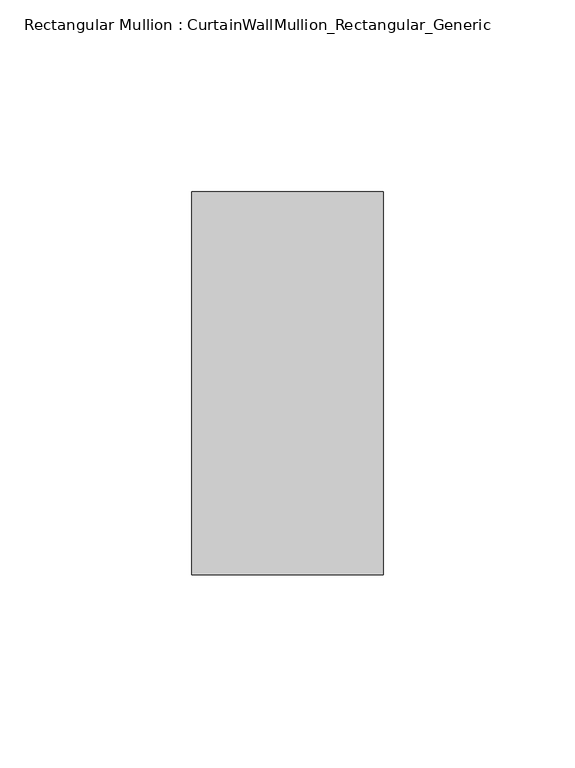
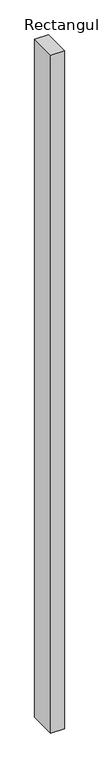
"""IFC4 building model written with IfcOpenShell, lengths in millimetres: member geometry, Rectangular Mullion : CurtainWallMullion_Rectangular_Generic."""

import ifcopenshell
import ifcopenshell.guid

model = None  # the IFC model being written
_history = None  # IfcOwnerHistory: only IFC2X3 demands one
_inside = {}  # id of a spatial element -> (the spatial element, [elements in it])
_under = {}  # id of a project, library or spatial element -> (it, [spatial elements below it])
_declared = {}  # id of a project -> (the project, [libraries it declares])
_typed = {}  # id of a type object -> (the type object, [elements of that type])
_made_of = {}  # id of a material, layer set ... -> (it, [elements and type objects made of it])


def new_model(schema):
    """Start an empty IFC model of exactly this schema.

    Asked for "IFC4X3", IfcOpenShell would pick the latest addendum, in which some entities
    have other attributes; the version numbers below select the first issue.
    IFC2X3 requires an IfcOwnerHistory on every rooted entity: one is made here for all.
    """
    global model, _history
    if schema == "IFC4X3":
        model = ifcopenshell.file(schema_version=(4, 3, 0, 0))
    else:
        model = ifcopenshell.file(schema=schema)
    _inside.clear()
    _under.clear()
    _declared.clear()
    _typed.clear()
    _made_of.clear()
    _history = None
    if model.schema == "IFC2X3":
        org = make("IfcOrganization", Name="unknown")
        user = make(
            "IfcPersonAndOrganization",
            ThePerson=make("IfcPerson", FamilyName="unknown"),
            TheOrganization=org,
        )
        app = make(
            "IfcApplication",
            ApplicationDeveloper=org,
            Version="unknown",
            ApplicationFullName="unknown",
            ApplicationIdentifier="unknown",
        )
        _history = make(
            "IfcOwnerHistory",
            OwningUser=user,
            OwningApplication=app,
            ChangeAction="ADDED",
            CreationDate=0,
        )
    return model


def make(cls, **values):
    """One entity of the class cls with the attributes given. An attribute that is None is left unset."""
    return model.create_entity(
        cls, **{name: value for name, value in values.items() if value is not None}
    )


def rooted(cls, **values):
    """An entity with a GlobalId (a new one), such as an element, a storey or a relation."""
    return make(cls, GlobalId=ifcopenshell.guid.new(), OwnerHistory=_history, **values)


def si_unit(unit_type, name, prefix=None):
    """IfcSIUnit, for example si_unit("LENGTHUNIT", "METRE", prefix="MILLI")."""
    return make("IfcSIUnit", UnitType=unit_type, Prefix=prefix, Name=name)


def assignment(units):
    """IfcUnitAssignment: the units of a project."""
    return None if units is None else make("IfcUnitAssignment", Units=units)


def point(xyz):
    """IfcCartesianPoint."""
    return None if xyz is None else make("IfcCartesianPoint", Coordinates=xyz)


def direction(xyz):
    """IfcDirection."""
    return None if xyz is None else make("IfcDirection", DirectionRatios=xyz)


def frame(location, z_axis=None, x_axis=None):
    """IfcAxis2Placement3D, a coordinate frame: its origin and axes. An axis left out is left unset."""
    return make(
        "IfcAxis2Placement3D",
        Location=point(location),
        Axis=direction(z_axis),
        RefDirection=direction(x_axis),
    )


def origin():
    """The frame at (0, 0, 0) with its axes left unset."""
    return frame((0.0, 0.0, 0.0))


def place(relative_to, where):
    """IfcLocalPlacement: puts the frame where relative to a parent placement (None: the world)."""
    return make(
        "IfcLocalPlacement", PlacementRelTo=relative_to, RelativePlacement=where
    )


def context(
    kind, dimensions, precision=None, world=None, true_north=None, identifier=None
):
    """IfcGeometricRepresentationContext, for example the 3D "Model" context."""
    return make(
        "IfcGeometricRepresentationContext",
        ContextIdentifier=identifier,
        ContextType=kind,
        CoordinateSpaceDimension=dimensions,
        Precision=precision,
        WorldCoordinateSystem=world,
        TrueNorth=true_north,
    )


def project(units=None, contexts=None):
    """IfcProject with its units and contexts."""
    return rooted(
        "IfcProject",
        Name="project",
        RepresentationContexts=contexts,
        UnitsInContext=assignment(units),
    )


def spatial(cls, under=None, at=None, **own):
    """A site, building, storey or space (cls), placed at a placement, below another one or the project."""
    s = rooted(cls, ObjectPlacement=at, **own)
    if under is not None:
        _under.setdefault(under.id(), (under, []))[1].append(s)
    return s


def polyline(points):
    """IfcPolyline through the points."""
    return make("IfcPolyline", Points=[point(p) for p in points])


def outline(outer, holes=None, kind="AREA"):
    """IfcArbitraryClosedProfileDef: a profile drawn as a closed curve; with holes, ...WithVoids."""
    if holes is None:
        return make("IfcArbitraryClosedProfileDef", ProfileType=kind, OuterCurve=outer)
    return make(
        "IfcArbitraryProfileDefWithVoids",
        ProfileType=kind,
        OuterCurve=outer,
        InnerCurves=holes,
    )


def extrude(swept, where, along, depth):
    """IfcExtrudedAreaSolid: the profile swept, set in the frame where, extruded along a direction by depth."""
    return make(
        "IfcExtrudedAreaSolid",
        SweptArea=swept,
        Position=where,
        ExtrudedDirection=direction(along),
        Depth=depth,
    )


def shape(context_of_items, identifier, shape_type, items):
    """IfcShapeRepresentation: the items that make up one representation, for example the "Body"."""
    return make(
        "IfcShapeRepresentation",
        ContextOfItems=context_of_items,
        RepresentationIdentifier=identifier,
        RepresentationType=shape_type,
        Items=items,
    )


def source(mapping_origin, context_of_items, identifier, shape_type, items):
    """IfcRepresentationMap: a shape defined once, which mapped items show again and again."""
    return make(
        "IfcRepresentationMap",
        MappingOrigin=mapping_origin,
        MappedRepresentation=shape(context_of_items, identifier, shape_type, items),
    )


def transform(
    local_origin,
    x_axis=None,
    y_axis=None,
    z_axis=None,
    scale=None,
    scale2=None,
    scale3=None,
    uniform=True,
):
    """IfcCartesianTransformationOperator3D, or its non-uniform kind. x_axis, y_axis, z_axis: its Axis1, 2, 3."""
    if uniform:
        return make(
            "IfcCartesianTransformationOperator3D",
            Axis1=direction(x_axis),
            Axis2=direction(y_axis),
            LocalOrigin=point(local_origin),
            Scale=scale,
            Axis3=direction(z_axis),
        )
    return make(
        "IfcCartesianTransformationOperator3DnonUniform",
        Axis1=direction(x_axis),
        Axis2=direction(y_axis),
        LocalOrigin=point(local_origin),
        Scale=scale,
        Axis3=direction(z_axis),
        Scale2=scale2,
        Scale3=scale3,
    )


def mapped(mapping_source, mapping_target):
    """IfcMappedItem: shows the shape of a source again, moved by a transform."""
    return make(
        "IfcMappedItem", MappingSource=mapping_source, MappingTarget=mapping_target
    )


def made_of(thing, what):
    """Note that an element or type object is made of a material, layer set ...; save() writes the relation."""
    if what is not None:
        _made_of.setdefault(what.id(), (what, []))[1].append(thing)
    return thing


def element(
    cls,
    number,
    at=None,
    inside=None,
    cuts=None,
    type_object=None,
    material=None,
    context=None,
    identifier="Body",
    shape_type=None,
    held_by="IfcProductDefinitionShape",
    body=None,
    shapes=None,
    **own,
):
    """One element of the class cls, such as IfcWall. Its Tag is "e" and its number.

    at: its placement. inside: the storey or other place that contains it. cuts: it is an
    opening in that element (IfcRelVoidsElement). A single representation is given by context,
    identifier, shape_type and body (its items); several are given by shapes. held_by: the class
    of the entity that holds the representations. save() writes the other relations.
    """
    e = rooted(cls, Tag="e%d" % number, ObjectPlacement=at, **own)
    if body is not None:
        shapes = [shape(context, identifier, shape_type, body)]
    if shapes is not None:
        e.Representation = make(held_by, Representations=shapes)
    if inside is not None:
        _inside.setdefault(inside.id(), (inside, []))[1].append(e)
    if cuts is not None:
        rooted(
            "IfcRelVoidsElement", RelatingBuildingElement=cuts, RelatedOpeningElement=e
        )
    if type_object is not None:
        _typed.setdefault(type_object.id(), (type_object, []))[1].append(e)
    return made_of(e, material)


def aggregate(whole, parts):
    """IfcRelAggregates: a whole, such as a stair, and the parts it consists of."""
    return rooted("IfcRelAggregates", RelatingObject=whole, RelatedObjects=parts)


def save(model, path):
    """Write the relations noted so far, then the file.

    IfcRelAggregates (storeys below a building ...), IfcRelContainedInSpatialStructure (elements
    in a storey), IfcRelDefinesByType, IfcRelAssociatesMaterial and IfcRelDeclares: one each for
    every whole, place, type object, material and project.
    """
    for whole, parts in _under.values():
        aggregate(whole, parts)
    for where, things in _inside.values():
        rooted(
            "IfcRelContainedInSpatialStructure",
            RelatedElements=things,
            RelatingStructure=where,
        )
    for kind, things in _typed.values():
        rooted("IfcRelDefinesByType", RelatedObjects=things, RelatingType=kind)
    for what, things in _made_of.values():
        rooted("IfcRelAssociatesMaterial", RelatedObjects=things, RelatingMaterial=what)
    for by, libraries in _declared.values():
        rooted("IfcRelDeclares", RelatingContext=by, RelatedDefinitions=libraries)
    model.write(path)


def rectangular_mullion_curtainwallmullion_rectangular_generic_bd027367(model_context):
    return source(origin(), model_context, "Body", "SweptSolid", [
        extrude(outline(polyline([(25.0, 50.0), (25.0, -50.0), (-25.0, -50.0), (-25.0, 50.0), (25.0, 50.0)])), frame((0.0, 0.0, -2602.0000001), z_axis=(0.0, 0.0, 1.0), x_axis=(1.0, 0.0, 0.0)), (0.0, 0.0, 1.0), 2602.0000001),
    ])


if __name__ == "__main__":
    model = new_model("IFC4")
    model_context = context("Model", 3, world=origin())
    ifc_project = project(units=[si_unit("LENGTHUNIT", "METRE", prefix="MILLI")], contexts=[model_context])
    site = spatial("IfcSite", under=ifc_project)
    building = spatial("IfcBuilding", under=site)
    placement = place(None, origin())
    rectangular_mullion_curtainwallmullion_rectangular_generic_shape = rectangular_mullion_curtainwallmullion_rectangular_generic_bd027367(model_context)
    element("IfcMember", 1, ObjectType="Rectangular Mullion : CurtainWallMullion_Rectangular_Generic", at=placement, inside=building, context=model_context, shape_type="MappedRepresentation", body=[
        mapped(rectangular_mullion_curtainwallmullion_rectangular_generic_shape, transform((0.0, 0.0, 0.0), x_axis=(1.0, 0.0, 0.0), y_axis=(0.0, 1.0, 0.0), z_axis=(0.0, 0.0, 1.0))),
    ])
    save(model, "model.ifc")
